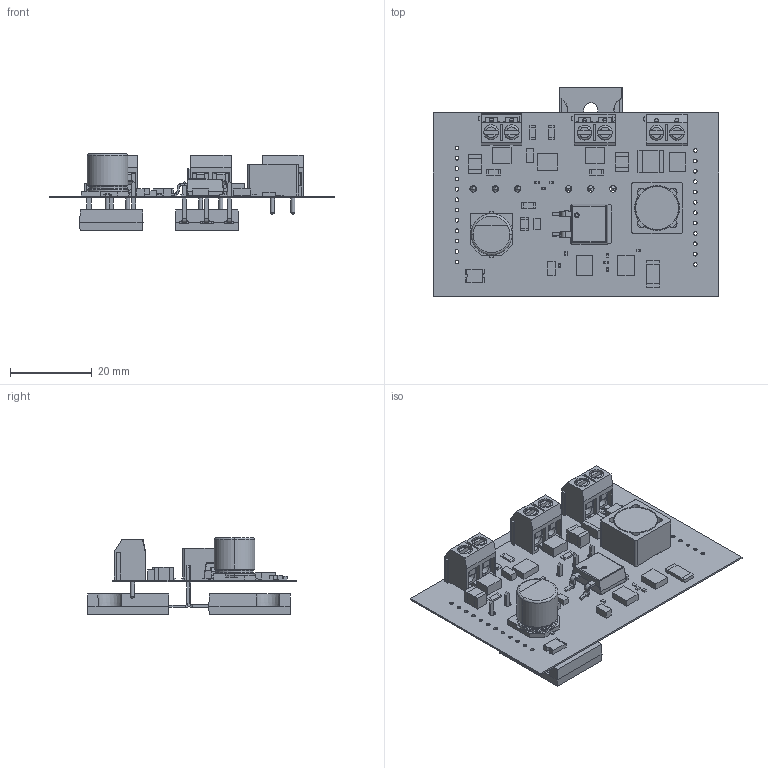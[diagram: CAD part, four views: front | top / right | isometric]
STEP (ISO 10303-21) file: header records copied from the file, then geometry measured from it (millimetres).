
FILE_DESCRIPTION(('Open CASCADE Model'),'2;1');
FILE_NAME('Open CASCADE Shape Model','2017-06-09T00:49:48',('Author'),( 'Open CASCADE'),'Open CASCADE STEP processor 6.8','Open CASCADE 6.8' ,'Unknown');
FILE_SCHEMA(('AUTOMOTIVE_DESIGN { 1 0 10303 214 1 1 1 1 }'));
Length unit declared in the file: millimetre
Products named in the file (1): PCB
Bounding box: 69.98 x 51.31 x 18.82 mm (x, y, z)
Volume: 7701.6 mm3; surface area: 18316.5 mm2
Topology: 104 solids, 175 shells, 1599 faces, 4097 edges, 2764 vertices
Faces by surface type: plane 1167, cylinder 245, bspline 135, torus 30, cone 16, revolution 6
Full cylindrical faces by diameter (mm): 0.9 x24, 1 x12, 1.3 x6, 1.6 x6, 1.8 x6, 2 x6, 2.5 x6, 2.6 x6, 2.9 x6, 3 x6, 3.5 x2, 3.6 x6, 3.64 x6, 6.5 x4
Entity records: 51323 total; most frequent: CARTESIAN_POINT 12457, ORIENTED_EDGE 7788, DIRECTION 7048, EDGE_CURVE 4085, VERTEX_POINT 2758, LINE 2720, VECTOR 2720, AXIS2_PLACEMENT_3D 2161
